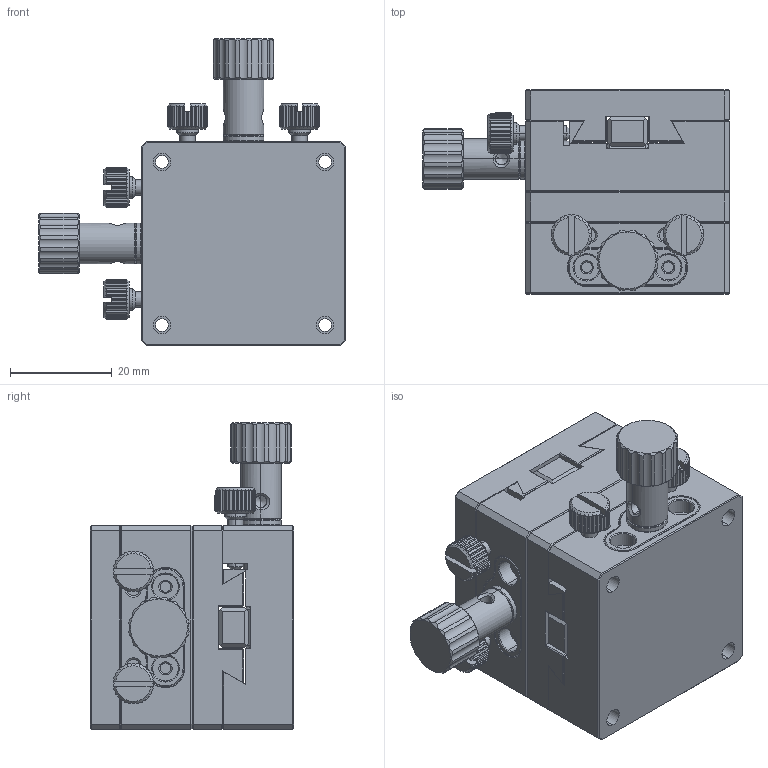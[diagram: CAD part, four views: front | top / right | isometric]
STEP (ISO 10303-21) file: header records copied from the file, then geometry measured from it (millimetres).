
FILE_DESCRIPTION((''),'2;1');
FILE_NAME('ASSY-40-40S-ST15-XYR_ASM','2022-02-17T15:06:08',('windows10'),(''),'CREO PARAMETRIC BY PTC INC, 2018260','CREO PARAMETRIC BY PTC INC, 2018260','');
FILE_SCHEMA(('CONFIG_CONTROL_DESIGN'));
Length unit declared in the file: millimetre
Products named in the file (10): BOTTOM-40-20-F-NEW; TOP-40-20-M-NEW; RACK-8-6-40-SLIM-NEW; PINION-4-29; HOLDER-PINION-4D5-SPECIAL; WASHER-8-4-1D4; HANDLE-12-19; STOPPER-8-M3-16; ASSY-40-40S-ST15_ASM; ASSY-40-40S-ST15-XYR_ASM
Assembly tree (11 placements, depth 3):
  ASSY-40-40S-ST15-XYR_ASM
    ASSY-40-40S-ST15_ASM  x2
      BOTTOM-40-20-F-NEW
      TOP-40-20-M-NEW
      RACK-8-6-40-SLIM-NEW
      PINION-4-29
      HOLDER-PINION-4D5-SPECIAL
      WASHER-8-4-1D4
      HANDLE-12-19
      STOPPER-8-M3-16
Bounding box: 60.22 x 40 x 60.22 mm (x, y, z)
Volume: 62864.4 mm3; surface area: 35563.9 mm2
Topology: 18 solids, 18 shells, 1278 faces, 3286 edges, 2072 vertices
Faces by surface type: plane 596, cylinder 432, cone 242, bspline 8
Entity records: 17095 total; most frequent: CARTESIAN_POINT 4109, DIRECTION 2696, ORIENTED_EDGE 2650, EDGE_CURVE 1325, AXIS2_PLACEMENT_3D 999, VERTEX_POINT 830, VECTOR 698, LINE 698
